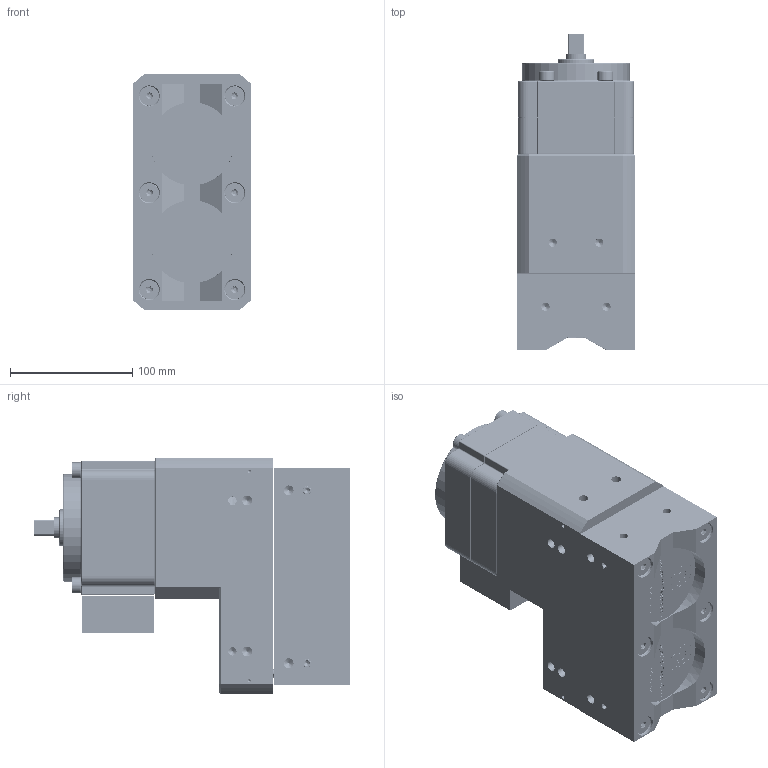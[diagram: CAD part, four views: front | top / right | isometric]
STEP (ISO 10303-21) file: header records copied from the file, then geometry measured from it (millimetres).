
FILE_DESCRIPTION (( 'STEP AP214' ), '1' );
FILE_NAME ('81401497_CFM.STEP', '2024-07-31T21:27:33', ( '' ), ( '' ), 'SwSTEP 2.0', 'SolidWorks 2022', '' );
FILE_SCHEMA (( 'AUTOMOTIVE_DESIGN' ));
Length unit declared in the file: millimetre
Products named in the file (1): 81401497_CFM
Bounding box: 96 x 258.25 x 193.5 mm (x, y, z)
Volume: 3017471.3 mm3; surface area: 387061.2 mm2
Topology: 25 solids, 25 shells, 4768 faces, 12002 edges, 7510 vertices
Faces by surface type: plane 1636, cylinder 1374, bspline 893, cone 801, torus 56, sphere 8
Entity records: 271983 total; most frequent: CARTESIAN_POINT 117845, ORIENTED_EDGE 23792, DIRECTION 17823, EDGE_CURVE 11896, VERTEX_POINT 7510, LINE 6461, VECTOR 6461, AXIS2_PLACEMENT_3D 5681
